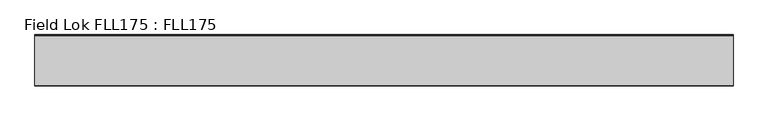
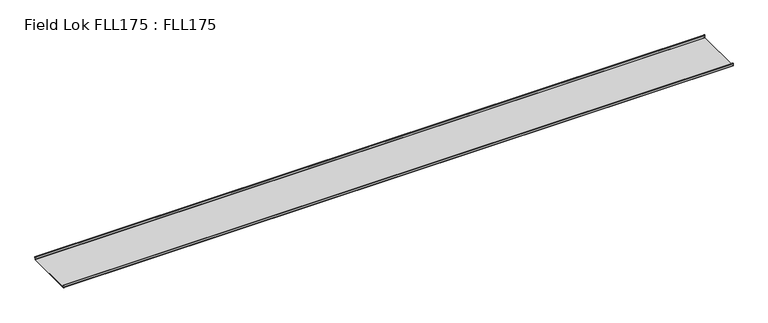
"""IFC4 building model written with IfcOpenShell, lengths in millimetres: proxy geometry, Field Lok FLL175 : FLL175."""

from ifc_helpers import new_model, si_unit, point, frame, frame_2d, origin, place, context, project, spatial, polyline, circle_curve, trimmed, segment, composite_curve, outline, extrude, source, transform, mapped, element, save


def field_lok_fll175_fll175_662b81a3(model_context):
    return source(origin(), model_context, "Body", "SweptSolid", [
        extrude(outline(composite_curve([segment(polyline([(-61.191187, 158.6757273), (381.0935919, 158.6757273)]), True, "CONTINUOUS"), segment(trimmed(circle_curve(frame_2d((381.0935919, 159.3020707)), 0.6263434), [point((381.0935919, 158.6757273))], [point((381.6212294, 159.6395686))], True, "CARTESIAN"), True, "CONTINUOUS"), segment(polyline([(381.6212294, 159.6395686), (382.3834838, 181.4676782)]), True, "CONTINUOUS"), segment(trimmed(circle_curve(frame_2d((383.6354076, 181.4239601)), 1.2526869), [point((382.3834838, 181.4676782))], [point((383.6354076, 182.6766469))], False, "CARTESIAN"), True, "CONTINUOUS"), segment(polyline([(383.6354076, 182.6766469), (386.6819214, 182.6766469)]), True, "CONTINUOUS"), segment(trimmed(circle_curve(frame_2d((386.6819214, 181.4239601)), 1.2526869), [point((386.6819214, 182.6766469))], [point((387.9346083, 181.4239601))], False, "CARTESIAN"), True, "CONTINUOUS"), segment(polyline([(387.9346083, 181.4239601), (387.9346083, 174.9256468)]), True, "CONTINUOUS"), segment(trimmed(circle_curve(frame_2d((386.4959756, 174.9256468)), 1.4386326), [point((387.9346083, 174.9256468))], [point((385.057343, 174.9256468))], False, "CARTESIAN"), True, "CONTINUOUS"), segment(polyline([(385.057343, 174.9256468), (385.057343, 178.3509625), (387.3082648, 178.3509625), (387.3082648, 181.4239601)]), True, "CONTINUOUS"), segment(trimmed(circle_curve(frame_2d((386.6819214, 181.4239601)), 0.6263434), [point((387.3082648, 181.4239601))], [point((386.6819214, 182.0503035))], True, "CARTESIAN"), True, "CONTINUOUS"), segment(polyline([(386.6819214, 182.0503035), (383.6354076, 182.0503035)]), True, "CONTINUOUS"), segment(trimmed(circle_curve(frame_2d((383.6354076, 181.4239601)), 0.6263434), [point((383.6354076, 182.0503035))], [point((383.0094457, 181.4458191))], True, "CARTESIAN"), True, "CONTINUOUS"), segment(polyline([(383.0094457, 181.4458191), (382.2527542, 159.77701)]), True, "CONTINUOUS"), segment(trimmed(circle_curve(frame_2d((381.0935919, 159.3020707)), 1.2526869), [point((382.2527542, 159.77701))], [point((381.0935919, 158.0493838))], False, "CARTESIAN"), True, "CONTINUOUS"), segment(polyline([(381.0935919, 158.0493838), (-61.191187, 158.0493838)]), True, "CONTINUOUS"), segment(trimmed(circle_curve(frame_2d((-61.191187, 159.3020707)), 1.2526869), [point((-61.191187, 158.0493838))], [point((-62.4438739, 159.3020707))], False, "CARTESIAN"), True, "CONTINUOUS"), segment(polyline([(-62.4438739, 159.3020707), (-62.4438739, 180.1712732)]), True, "CONTINUOUS"), segment(trimmed(circle_curve(frame_2d((-61.191187, 180.1712732)), 1.2526869), [point((-62.4438739, 180.1712732))], [point((-59.9385001, 180.1712732))], False, "CARTESIAN"), True, "CONTINUOUS"), segment(polyline([(-59.9385001, 180.1712732), (-59.9385001, 174.7494877), (-61.8175305, 174.7494877), (-61.8175305, 159.3020707)]), True, "CONTINUOUS"), segment(trimmed(circle_curve(frame_2d((-61.191187, 159.3020707)), 0.6263434), [point((-61.8175305, 159.3020707))], [point((-61.191187, 158.6757273))], True, "CARTESIAN"), True, "CONTINUOUS")], self_intersect=False)), frame((-3140.195459, 0.0, 0.0), z_axis=(1.0, 0.0, 0.0), x_axis=(0.0, 1.0, 0.0)), (0.0, 0.0, 1.0), 6096.0),
    ])


if __name__ == "__main__":
    model = new_model("IFC4")
    model_context = context("Model", 3, world=origin())
    ifc_project = project(units=[si_unit("LENGTHUNIT", "METRE", prefix="MILLI")], contexts=[model_context])
    site = spatial("IfcSite", under=ifc_project)
    building = spatial("IfcBuilding", under=site)
    placement = place(None, origin())
    field_lok_fll175_fll175_shape = field_lok_fll175_fll175_662b81a3(model_context)
    element("IfcBuildingElementProxy", 1, Name="Field Lok FLL175 : FLL175", ObjectType="Field Lok FLL175 : FLL175", at=placement, inside=building, context=model_context, shape_type="MappedRepresentation", body=[
        mapped(field_lok_fll175_fll175_shape, transform((0.0, 0.0, 0.0), x_axis=(1.0, 0.0, 0.0), y_axis=(0.0, 1.0, 0.0), z_axis=(0.0, 0.0, 1.0))),
    ])
    save(model, "model.ifc")
